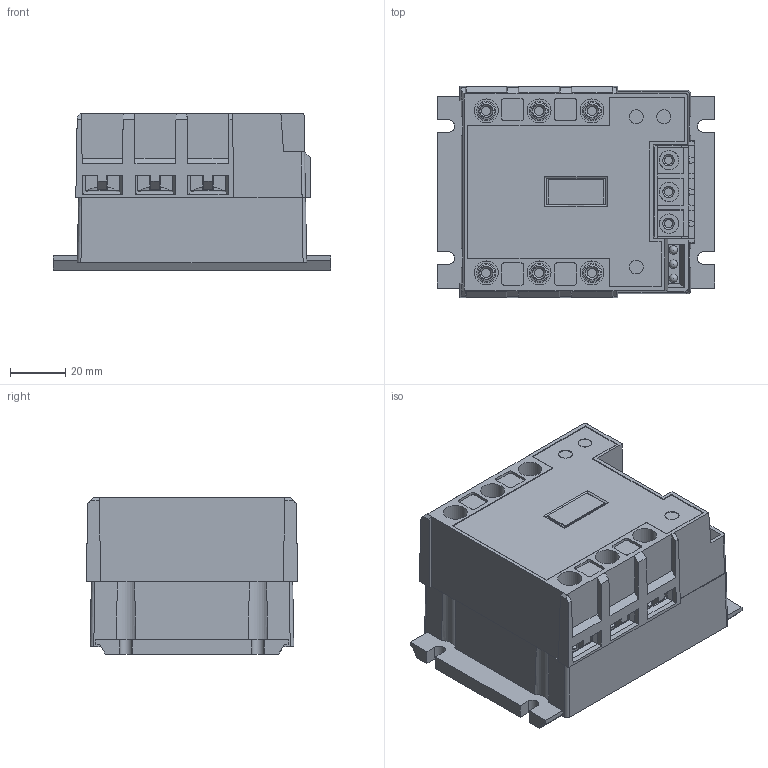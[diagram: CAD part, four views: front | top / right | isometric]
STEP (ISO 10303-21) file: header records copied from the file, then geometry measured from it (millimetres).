
FILE_DESCRIPTION(/* description */ (''),/* implementation_level */ '2;1');
FILE_NAME(/* name */ 'C:\Users\gmarion\Desktop\2D3D 627 A\2D3D 627 A.stp',/* time_stamp */ '2015-03-13T09:52:28+01:00',/* author */ ('Guillaume MARION Technicien méthodes +33 (0)4 77 53 90 29'),/* organization */ ('5, Rue Ampère, BP 30004 42 290 Sorbiers, France +33 (0)4 77 53 90 00 www.celduc.com'),/* preprocessor_version */ 'ST-DEVELOPER v15.2',/* originating_system */ 'Autodesk Inventor 2014',/* authorisation */ '');
FILE_SCHEMA (('AUTOMOTIVE_DESIGN { 1 0 10303 214 3 1 1 }'));
Length unit declared in the file: millimetre
Products named in the file (1): SV9++++++E fixture Ø5_58.4 x 92
Bounding box: 100 x 76.2 x 56.4 mm (x, y, z)
Volume: 312210.1 mm3; surface area: 42957.3 mm2
Topology: 1 solids, 4 shells, 667 faces, 1800 edges, 1164 vertices
Faces by surface type: plane 547, cylinder 66, cone 51, sphere 3
Full cylindrical faces by diameter (mm): 2.9 x3, 3.3 x6, 7 x9, 8.6 x6
Entity records: 20819 total; most frequent: CARTESIAN_POINT 4263, ORIENTED_EDGE 3466, DIRECTION 3225, EDGE_CURVE 1730, LINE 1391, VECTOR 1391, VERTEX_POINT 1145, AXIS2_PLACEMENT_3D 917
